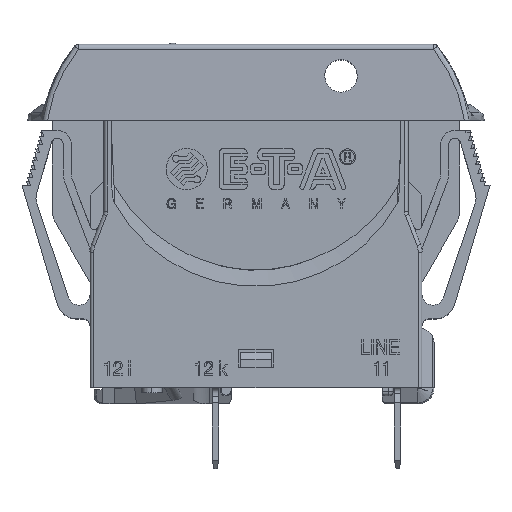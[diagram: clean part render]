
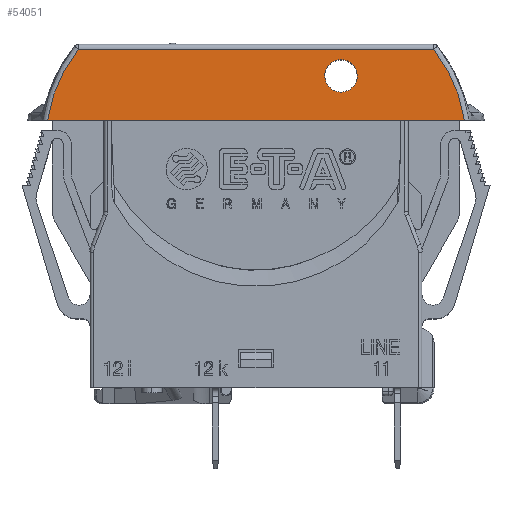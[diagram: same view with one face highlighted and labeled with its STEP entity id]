
A CAD part, top view. The second image highlights one B-rep face of the part: STEP entity #54051.
In plain terms, the highlighted planar face has unit normal (0, 0.018, 1).
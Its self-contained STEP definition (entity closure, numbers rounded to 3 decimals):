
#1909=CARTESIAN_POINT('',(-25.744,33.,12.535));
#1924=DIRECTION('',(1.,0.,0.));
#1925=VECTOR('',#1924,51.488);
#1926=CARTESIAN_POINT('',(-25.744,33.,12.535));
#1927=LINE('',#1926,#1925);
#1941=CARTESIAN_POINT('',(25.744,33.,12.535));
#18253=CARTESIAN_POINT('',(12.5,38.5,12.439));
#18254=CARTESIAN_POINT('',(12.5,38.736,12.435));
#18255=CARTESIAN_POINT('',(12.435,39.117,12.428));
#18256=CARTESIAN_POINT('',(12.187,39.601,12.42));
#18257=CARTESIAN_POINT('',(11.924,39.924,12.414));
#18258=CARTESIAN_POINT('',(11.601,40.187,12.409));
#18259=CARTESIAN_POINT('',(11.238,40.373,12.406));
#18260=CARTESIAN_POINT('',(10.925,40.461,12.405));
#18261=CARTESIAN_POINT('',(10.679,40.495,12.404));
#18262=CARTESIAN_POINT('',(10.5,40.503,12.404));
#18263=CARTESIAN_POINT('',(10.321,40.495,12.404));
#18264=CARTESIAN_POINT('',(10.075,40.461,12.405));
#18265=CARTESIAN_POINT('',(9.762,40.373,12.406));
#18266=CARTESIAN_POINT('',(9.399,40.187,12.409));
#18267=CARTESIAN_POINT('',(9.076,39.924,12.414));
#18268=CARTESIAN_POINT('',(8.813,39.601,12.42));
#18269=CARTESIAN_POINT('',(8.565,39.117,12.428));
#18270=CARTESIAN_POINT('',(8.5,38.736,12.435));
#18271=CARTESIAN_POINT('',(8.5,38.5,12.439));
#18273=CARTESIAN_POINT('',(8.5,38.5,12.439));
#18274=CARTESIAN_POINT('',(8.5,38.264,12.443));
#18275=CARTESIAN_POINT('',(8.565,37.883,12.45));
#18276=CARTESIAN_POINT('',(8.813,37.399,12.458));
#18277=CARTESIAN_POINT('',(9.076,37.076,12.464));
#18278=CARTESIAN_POINT('',(9.399,36.813,12.468));
#18279=CARTESIAN_POINT('',(9.762,36.627,12.472));
#18280=CARTESIAN_POINT('',(10.075,36.539,12.473));
#18281=CARTESIAN_POINT('',(10.321,36.505,12.474));
#18282=CARTESIAN_POINT('',(10.5,36.497,12.474));
#18283=CARTESIAN_POINT('',(10.679,36.505,12.474));
#18284=CARTESIAN_POINT('',(10.925,36.539,12.473));
#18285=CARTESIAN_POINT('',(11.238,36.627,12.472));
#18286=CARTESIAN_POINT('',(11.601,36.813,12.468));
#18287=CARTESIAN_POINT('',(11.924,37.076,12.464));
#18288=CARTESIAN_POINT('',(12.187,37.399,12.458));
#18289=CARTESIAN_POINT('',(12.435,37.883,12.45));
#18290=CARTESIAN_POINT('',(12.5,38.264,12.443));
#18291=CARTESIAN_POINT('',(12.5,38.5,12.439));
#18293=CARTESIAN_POINT('',(-21.95,41.81,
12.381));
#18294=CARTESIAN_POINT('',(-22.153,41.552,
12.386));
#18295=CARTESIAN_POINT('',(-22.543,41.026,
12.395));
#18296=CARTESIAN_POINT('',(-23.084,40.213,
12.409));
#18297=CARTESIAN_POINT('',(-23.582,39.375,
12.424));
#18298=CARTESIAN_POINT('',(-24.034,38.515,
12.439));
#18299=CARTESIAN_POINT('',(-24.44,37.634,
12.454));
#18300=CARTESIAN_POINT('',(-24.799,36.735,
12.47));
#18301=CARTESIAN_POINT('',(-25.11,35.82,
12.486));
#18302=CARTESIAN_POINT('',(-25.373,34.891,
12.502));
#18303=CARTESIAN_POINT('',(-25.587,33.95,
12.518));
#18304=CARTESIAN_POINT('',(-25.697,33.318,
12.529));
#18305=CARTESIAN_POINT('',(-25.744,33.,
12.535));
#18307=DIRECTION('',(-1.,0.,0.));
#18308=VECTOR('',#18307,43.899);
#18309=CARTESIAN_POINT('',(21.95,41.81,12.381));
#18310=LINE('',#18309,#18308);
#18311=CARTESIAN_POINT('',(25.744,33.,12.535));
#18312=CARTESIAN_POINT('',(25.697,33.317,12.529));
#18313=CARTESIAN_POINT('',(25.588,33.948,12.518));
#18314=CARTESIAN_POINT('',(25.374,34.887,12.502));
#18315=CARTESIAN_POINT('',(25.112,35.815,12.486));
#18316=CARTESIAN_POINT('',(24.801,36.729,12.47));
#18317=CARTESIAN_POINT('',(24.442,37.627,12.454));
#18318=CARTESIAN_POINT('',(24.037,38.509,12.439));
#18319=CARTESIAN_POINT('',(23.584,39.37,12.424));
#18320=CARTESIAN_POINT('',(23.086,40.21,12.409));
#18321=CARTESIAN_POINT('',(22.543,41.026,12.395));
#18322=CARTESIAN_POINT('',(22.153,41.552,12.386));
#18323=CARTESIAN_POINT('',(21.95,41.81,12.381));
#27992=CARTESIAN_POINT('',(12.5,38.5,12.439));
#27994=VERTEX_POINT('',#27992);
#28000=CARTESIAN_POINT('',(8.5,38.5,12.439));
#28002=VERTEX_POINT('',#28000);
#28657=VERTEX_POINT('',#1909);
#28659=VERTEX_POINT('',#18293);
#28660=CARTESIAN_POINT('',(21.95,41.81,12.381));
#28661=VERTEX_POINT('',#28660);
#28663=VERTEX_POINT('',#1941);
#54032=CARTESIAN_POINT('',(-27.317,35.,12.5));
#54033=DIRECTION('',(0.,0.017,1.));
#54034=DIRECTION('',(1.,0.,0.));
#54035=AXIS2_PLACEMENT_3D('',#54032,#54033,#54034);
#54036=PLANE('',#54035);
#54038=ORIENTED_EDGE('',*,*,#54037,.F.);
#54040=ORIENTED_EDGE('',*,*,#54039,.F.);
#54041=ORIENTED_EDGE('',*,*,#54025,.F.);
#54042=ORIENTED_EDGE('',*,*,#33138,.F.);
#54043=EDGE_LOOP('',(#54038,#54040,#54041,#54042));
#54044=FACE_OUTER_BOUND('',#54043,.F.);
#54046=ORIENTED_EDGE('',*,*,#54045,.T.);
#54048=ORIENTED_EDGE('',*,*,#54047,.T.);
#54049=EDGE_LOOP('',(#54046,#54048));
#54050=FACE_BOUND('',#54049,.F.);
#18272=B_SPLINE_CURVE_WITH_KNOTS('',3,(#18253,#18254,#18255,#18256,#18257,
#18258,#18259,#18260,#18261,#18262,#18263,#18264,#18265,#18266,#18267,#18268,
#18269,#18270,#18271),.UNSPECIFIED.,.F.,.F.,(4,1,1,1,1,1,1,1,1,1,1,1,1,1,1,1,4),
(0.,0.125,0.188,0.25,0.313,0.375,0.438,0.469,0.5,
0.531,0.563,0.625,0.688,0.75,0.813,0.875,1.),
.UNSPECIFIED.);
#18292=B_SPLINE_CURVE_WITH_KNOTS('',3,(#18273,#18274,#18275,#18276,#18277,
#18278,#18279,#18280,#18281,#18282,#18283,#18284,#18285,#18286,#18287,#18288,
#18289,#18290,#18291),.UNSPECIFIED.,.F.,.F.,(4,1,1,1,1,1,1,1,1,1,1,1,1,1,1,1,4),
(0.,0.125,0.188,0.25,0.313,0.375,0.438,0.469,0.5,
0.531,0.563,0.625,0.688,0.75,0.813,0.875,1.),
.UNSPECIFIED.);
#18306=B_SPLINE_CURVE_WITH_KNOTS('',3,(#18293,#18294,#18295,#18296,#18297,
#18298,#18299,#18300,#18301,#18302,#18303,#18304,#18305),.UNSPECIFIED.,.F.,.F.,(
4,1,1,1,1,1,1,1,1,1,4),(0.,0.1,0.2,0.3,0.4,0.5,0.6,0.7,0.8,
0.9,1.),.UNSPECIFIED.);
#18324=B_SPLINE_CURVE_WITH_KNOTS('',3,(#18311,#18312,#18313,#18314,#18315,
#18316,#18317,#18318,#18319,#18320,#18321,#18322,#18323),.UNSPECIFIED.,.F.,.F.,(
4,1,1,1,1,1,1,1,1,1,4),(0.,0.1,0.2,0.3,0.4,0.5,0.6,0.7,0.8,
0.9,1.),.UNSPECIFIED.);
#33138=EDGE_CURVE('',#28657,#28663,#1927,.T.);
#54025=EDGE_CURVE('',#28663,#28661,#18324,.T.);
#54037=EDGE_CURVE('',#28659,#28657,#18306,.T.);
#54039=EDGE_CURVE('',#28661,#28659,#18310,.T.);
#54045=EDGE_CURVE('',#27994,#28002,#18272,.T.);
#54047=EDGE_CURVE('',#28002,#27994,#18292,.T.);
#54051=ADVANCED_FACE('',(#54044,#54050),#54036,.T.);
